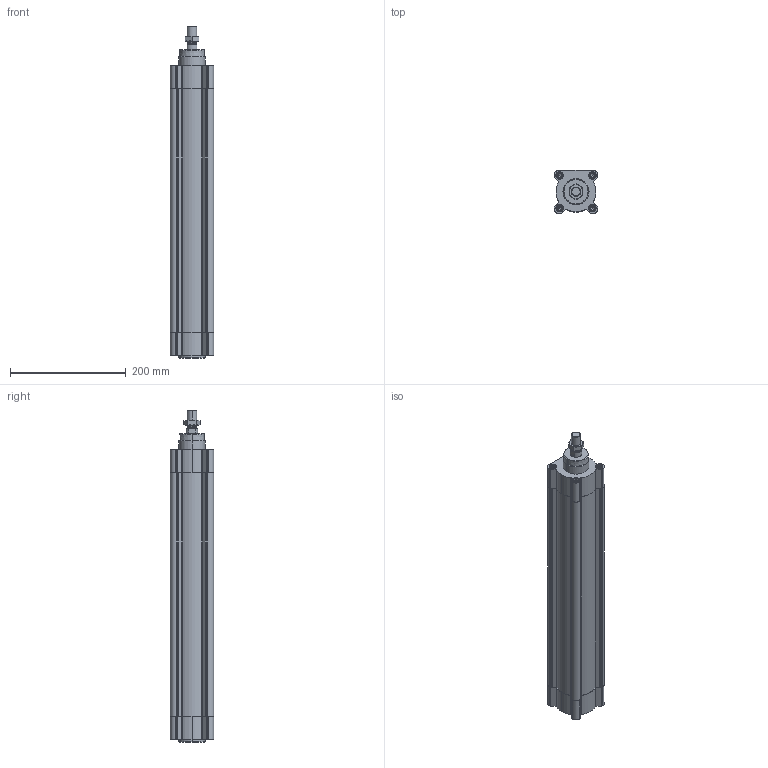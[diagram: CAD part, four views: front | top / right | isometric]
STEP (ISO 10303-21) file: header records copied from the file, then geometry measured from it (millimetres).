
FILE_DESCRIPTION (( 'STEP AP203' ), '1' );
FILE_NAME ('CPME63-380.STEP', '2024-09-24T10:17:49', ( '' ), ( '' ), 'SwSTEP 2.0', 'SolidWorks 2019', '' );
FILE_SCHEMA (( 'CONFIG_CONTROL_DESIGN' ));
Length unit declared in the file: millimetre
Products named in the file (1): CPME63-380
Bounding box: 75 x 75 x 573.1 mm (x, y, z)
Volume: 1332815.7 mm3; surface area: 335622.9 mm2
Topology: 3 solids, 3 shells, 639 faces, 1655 edges, 1050 vertices
Faces by surface type: plane 325, cylinder 200, cone 106, torus 8
Entity records: 19989 total; most frequent: CARTESIAN_POINT 4403, ORIENTED_EDGE 3278, DIRECTION 3187, EDGE_CURVE 1639, AXIS2_PLACEMENT_3D 1131, VERTEX_POINT 1050, LINE 925, VECTOR 925
